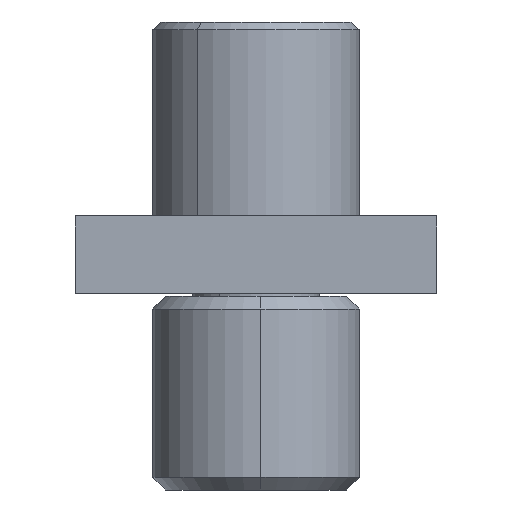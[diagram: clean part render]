
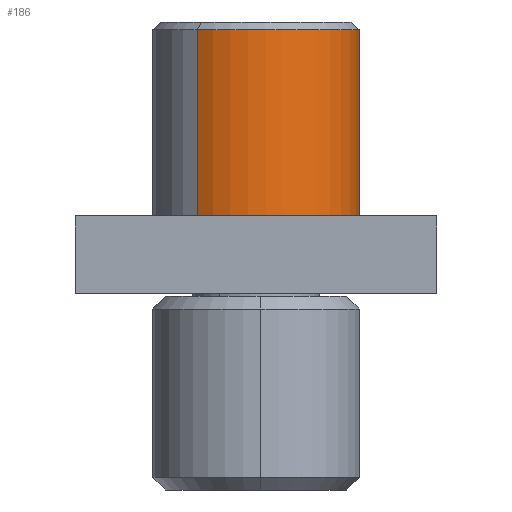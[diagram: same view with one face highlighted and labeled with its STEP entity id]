
A CAD part, left-side view. The second image highlights one B-rep face of the part: STEP entity #186.
In plain terms, the highlighted cylindrical face has radius 4 mm (diameter 8 mm), a partial arc.
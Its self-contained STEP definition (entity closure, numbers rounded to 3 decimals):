
#77 = EDGE_LOOP ( 'NONE', ( #315, #556, #354, #292 ) ) ;
#142 = EDGE_CURVE ( 'NONE', #959, #1408, #1445, .T. ) ;
#164 = EDGE_CURVE ( 'NONE', #959, #633, #1227, .T. ) ;
#186 = ADVANCED_FACE ( 'NONE', ( #1463 ), #1258, .T. ) ;
#203 = CARTESIAN_POINT ( 'NONE',  ( 0., 0., -7.5 ) ) ;
#204 = CARTESIAN_POINT ( 'NONE',  ( 0., 4., -0.3 ) ) ;
#292 = ORIENTED_EDGE ( 'NONE', *, *, #1142, .F. ) ;
#302 = AXIS2_PLACEMENT_3D ( 'NONE', #1066, #1315, #1183 ) ;
#315 = ORIENTED_EDGE ( 'NONE', *, *, #164, .F. ) ;
#319 = DIRECTION ( 'NONE',  ( 0., 1., 0. ) ) ;
#354 = ORIENTED_EDGE ( 'NONE', *, *, #1118, .T. ) ;
#407 = CARTESIAN_POINT ( 'NONE',  ( 0., -4., -18.1 ) ) ;
#556 = ORIENTED_EDGE ( 'NONE', *, *, #142, .T. ) ;
#578 = CARTESIAN_POINT ( 'NONE',  ( 0., -4., -0.3 ) ) ;
#594 = DIRECTION ( 'NONE',  ( 0., 0., -1. ) ) ;
#611 = CARTESIAN_POINT ( 'NONE',  ( 0., 4., -18.1 ) ) ;
#614 = DIRECTION ( 'NONE',  ( 0., 0., -1. ) ) ;
#632 = AXIS2_PLACEMENT_3D ( 'NONE', #203, #885, #319 ) ;
#633 = VERTEX_POINT ( 'NONE', #735 ) ;
#724 = VERTEX_POINT ( 'NONE', #1280 ) ;
#735 = CARTESIAN_POINT ( 'NONE',  ( 0., -4., -7.5 ) ) ;
#827 = VECTOR ( 'NONE', #614, 1000. ) ;
#868 = CARTESIAN_POINT ( 'NONE',  ( 0., 0., -18.1 ) ) ;
#885 = DIRECTION ( 'NONE',  ( 0., 0., -1. ) ) ;
#943 = LINE ( 'NONE', #611, #827 ) ;
#959 = VERTEX_POINT ( 'NONE', #578 ) ;
#1006 = DIRECTION ( 'NONE',  ( 0., 1., 0. ) ) ;
#1066 = CARTESIAN_POINT ( 'NONE',  ( 0., 0., -0.3 ) ) ;
#1074 = CIRCLE ( 'NONE', #632, 4. ) ;
#1118 = EDGE_CURVE ( 'NONE', #1408, #724, #943, .T. ) ;
#1142 = EDGE_CURVE ( 'NONE', #633, #724, #1074, .T. ) ;
#1183 = DIRECTION ( 'NONE',  ( 0., 1., 0. ) ) ;
#1227 = LINE ( 'NONE', #407, #1230 ) ;
#1230 = VECTOR ( 'NONE', #1322, 1000. ) ;
#1258 = CYLINDRICAL_SURFACE ( 'NONE', #1391, 4. ) ;
#1280 = CARTESIAN_POINT ( 'NONE',  ( 0., 4., -7.5 ) ) ;
#1315 = DIRECTION ( 'NONE',  ( 0., 0., -1. ) ) ;
#1322 = DIRECTION ( 'NONE',  ( 0., 0., -1. ) ) ;
#1391 = AXIS2_PLACEMENT_3D ( 'NONE', #868, #594, #1006 ) ;
#1408 = VERTEX_POINT ( 'NONE', #204 ) ;
#1445 = CIRCLE ( 'NONE', #302, 4. ) ;
#1463 = FACE_OUTER_BOUND ( 'NONE', #77, .T. ) ;
